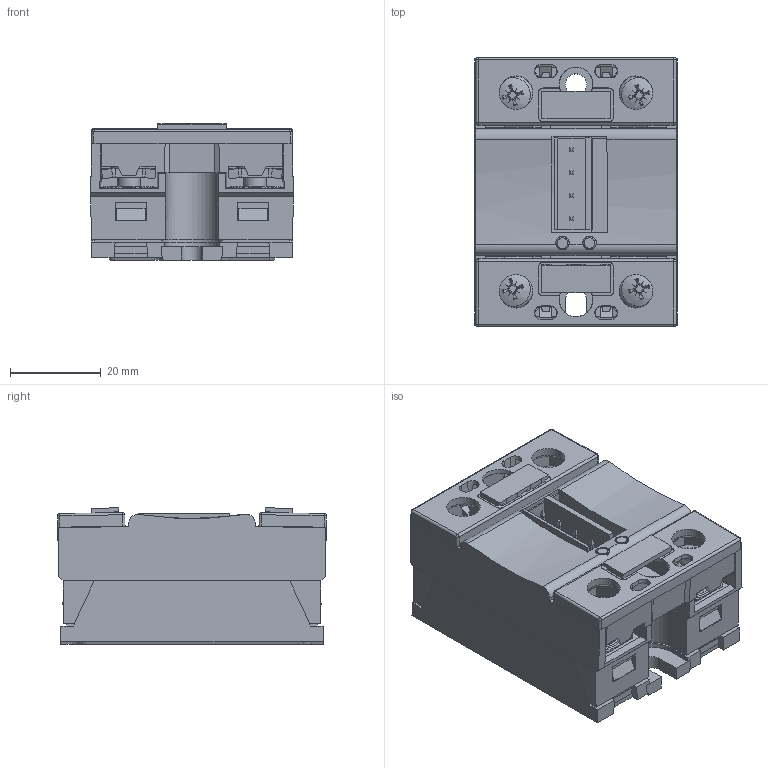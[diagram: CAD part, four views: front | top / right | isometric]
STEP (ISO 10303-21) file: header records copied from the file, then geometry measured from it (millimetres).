
FILE_DESCRIPTION((''),'2;1');
FILE_NAME('R:\Stock\3D pour clients\CELDUC references\2D3D 551 B.stp','2012-07-04T15:49:35',('Georges THOLLOT ','Tl : +33 (0)4 77 53 90 27','gthollot@celduc.com'),('Celduc r e l a i s','5, rue Ampre, BP 30004','42290 SORBIERS - France','Fax. : +33 (0)4 77 53 85 51','N siret 353 310 519 00015','ISO 9001 N QUAL/1993/1106b','www.celduc.com'),'Autodesk Inventor 2010','Autodesk Inventor 2010','');
FILE_SCHEMA(('CONFIG_CONTROL_DESIGN'));
Length unit declared in the file: millimetre
Products named in the file (1): SOB SDH
Bounding box: 44.8 x 59.39 x 30.13 mm (x, y, z)
Volume: 59643.1 mm3; surface area: 21576.1 mm2
Topology: 1 solids, 1 shells, 1255 faces, 3469 edges, 2208 vertices
Faces by surface type: plane 757, cone 223, cylinder 133, bspline 110, torus 20, sphere 12
Full cylindrical faces by diameter (mm): 2.35 x2, 4.567 x4, 4.7 x1, 5 x4
Entity records: 43897 total; most frequent: CARTESIAN_POINT 12302, ORIENTED_EDGE 6712, DIRECTION 5754, EDGE_CURVE 3356, VECTOR 2202, LINE 2202, VERTEX_POINT 2188, AXIS2_PLACEMENT_3D 1776
